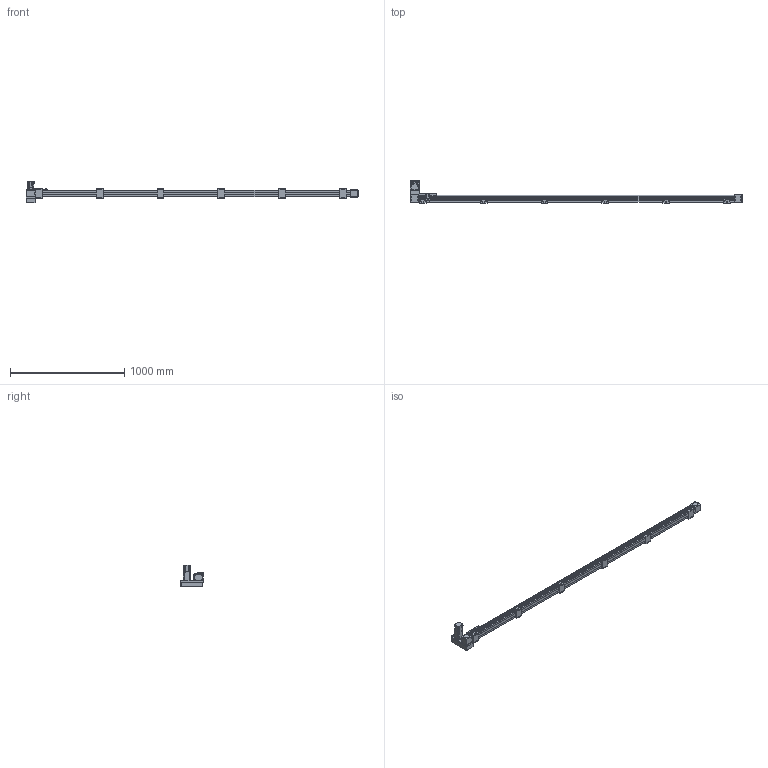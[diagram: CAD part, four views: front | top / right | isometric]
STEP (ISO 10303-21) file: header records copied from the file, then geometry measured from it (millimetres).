
FILE_DESCRIPTION(/* description */ ('STEP AP214'),/* implementation_level */ '2;1');
FILE_NAME(/* name */ 'SK60-P13-S2600-LU-T40-C1-N(0)',/* time_stamp */ '2023-04-06T04:48:50+02:00',/* author */ ('License CC BY-ND 4.0'),/* organization */ ('CADENAS'),/* preprocessor_version */ 'ST-DEVELOPER v19.3',/* originating_system */ 'PARTsolutions',/* authorisation */ ' ');
FILE_SCHEMA (('AUTOMOTIVE_DESIGN {1 0 10303 214 3 1 1}'));
Length unit declared in the file: millimetre
Products named in the file (10): SK60-P13-S2600-LU-T40-C1-N(0); PSC140-sensor; SK60-S450_seat; SK60-S450-BL-C1_slider; SK60_body3; SK60_body6; SK60-BL_body2; T40-p1; SK60-LU_fb; SK60-S2600-LU-C1_body
Assembly tree (20 placements, depth 2):
  SK60-P13-S2600-LU-T40-C1-N(0)
    PSC140-sensor  x3
    SK60-S450_seat  x6
    SK60-S450-BL-C1_slider
    SK60_body3  x3
    SK60_body6  x2
    SK60-BL_body2  x2
    T40-p1
    SK60-LU_fb
    SK60-S2600-LU-C1_body
Bounding box: 2905.5 x 201 x 189.7 mm (x, y, z)
Volume: 11091310.6 mm3; surface area: 1311184.8 mm2
Topology: 20 solids, 20 shells, 986 faces, 2440 edges, 1605 vertices
Faces by surface type: plane 620, cylinder 326, cone 38, torus 2
Full cylindrical faces by diameter (mm): 2.8 x3, 3.3 x4, 4 x2, 4.5 x30, 4.6 x3, 4.917 x32, 5 x6, 5.478 x4, 5.5 x35, 6.5 x12, 7 x2, 8 x4, 8.5 x4, 9.988 x4, 10 x24, 14 x1, 47 x3, 50 x2
Entity records: 18687 total; most frequent: DIRECTION 3192, CARTESIAN_POINT 3154, ORIENTED_EDGE 2940, EDGE_CURVE 1470, AXIS2_PLACEMENT_3D 1072, LINE 1048, VECTOR 1048, VERTEX_POINT 1034
